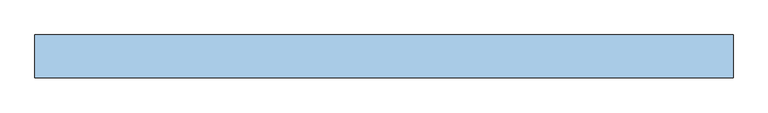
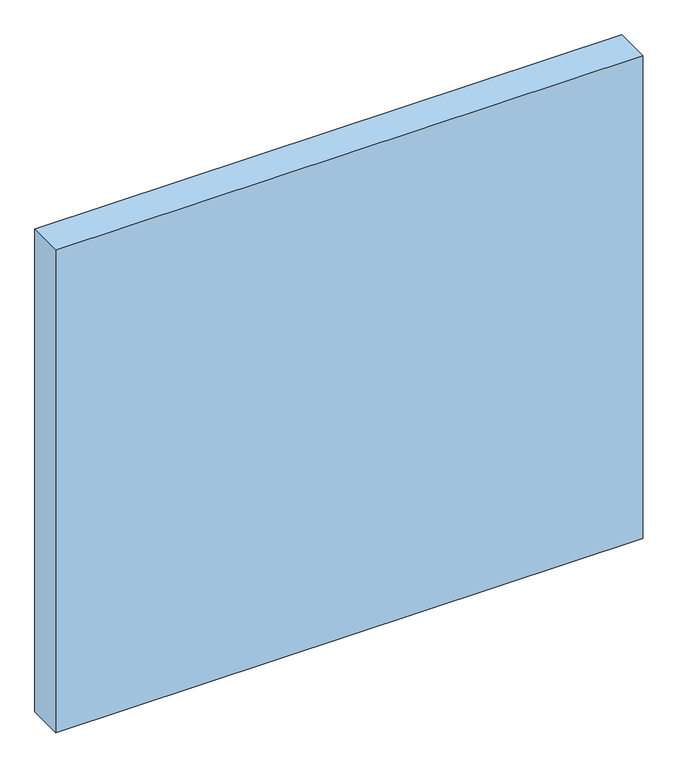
"""IFC4 building model written with IfcOpenShell, lengths in millimetres: window geometry, Dr_Проем-Четверти_окно : ОК."""

from ifc_helpers import new_model, si_unit, frame, origin, place, context, project, spatial, polyline, outline, extrude, source, transform, mapped, element, save


def window_1cd1a0aa(model_context):
    return source(origin(), model_context, "Body", "SweptSolid", [
        extrude(outline(polyline([(1355.0, -50.0), (-1085.0, -50.0), (-1085.0, 100.0), (1355.0, 100.0), (1355.0, -50.0)])), frame((0.0, 0.0, -60.0), z_axis=(0.0, 0.0, 1.0), x_axis=(1.0, 0.0, 0.0)), (0.0, 0.0, 1.0), 2120.0),
    ])


if __name__ == "__main__":
    model = new_model("IFC4")
    model_context = context("Model", 3, world=origin())
    ifc_project = project(units=[si_unit("LENGTHUNIT", "METRE", prefix="MILLI")], contexts=[model_context])
    site = spatial("IfcSite", under=ifc_project)
    building = spatial("IfcBuilding", under=site)
    placement = place(None, origin())
    window_shape = window_1cd1a0aa(model_context)
    element("IfcWindow", 1, ObjectType="Dr_Проем-Четверти_окно : ОК", at=placement, inside=building, context=model_context, shape_type="MappedRepresentation", body=[
        mapped(window_shape, transform((0.0, 0.0, 0.0), x_axis=(1.0, 0.0, 0.0), y_axis=(0.0, 1.0, 0.0), z_axis=(0.0, 0.0, 1.0))),
    ])
    save(model, "model.ifc")
